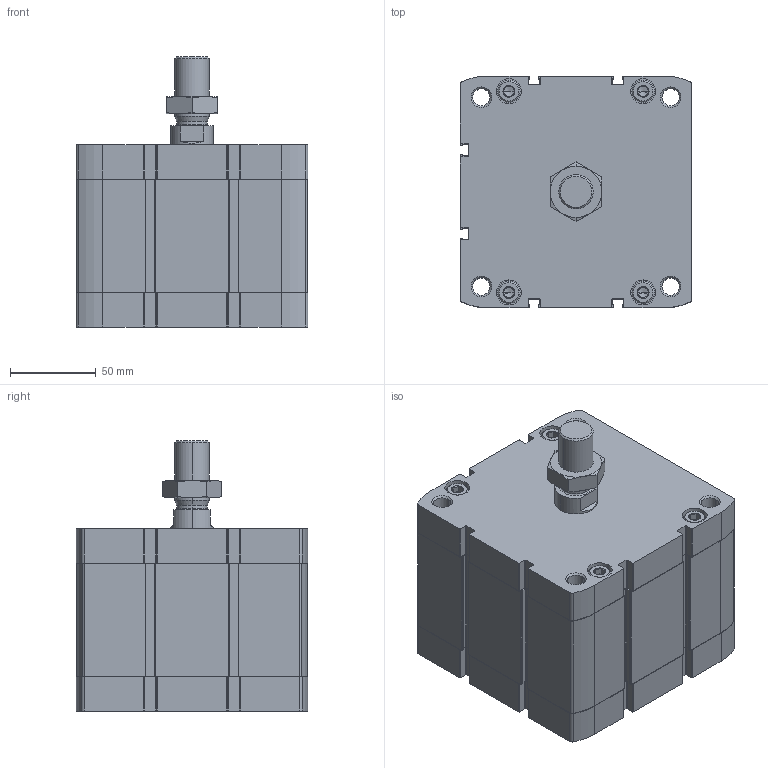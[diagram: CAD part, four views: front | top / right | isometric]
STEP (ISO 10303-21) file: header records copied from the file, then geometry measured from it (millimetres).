
FILE_DESCRIPTION (( 'STEP AP203' ), '1' );
FILE_NAME ('CCN125-25M.STEP', '2020-06-05T19:21:46', ( '' ), ( '' ), 'SwSTEP 2.0', 'SolidWorks 2019', '' );
FILE_SCHEMA (( 'CONFIG_CONTROL_DESIGN' ));
Length unit declared in the file: millimetre
Products named in the file (1): CCN125-25M
Bounding box: 134.6 x 134.6 x 157 mm (x, y, z)
Volume: 1561617.5 mm3; surface area: 214748.9 mm2
Topology: 3 solids, 3 shells, 555 faces, 1412 edges, 886 vertices
Faces by surface type: plane 275, cylinder 196, cone 80, torus 4
Entity records: 18163 total; most frequent: CARTESIAN_POINT 4452, DIRECTION 2966, ORIENTED_EDGE 2792, EDGE_CURVE 1396, AXIS2_PLACEMENT_3D 1092, VERTEX_POINT 886, LINE 782, VECTOR 782
